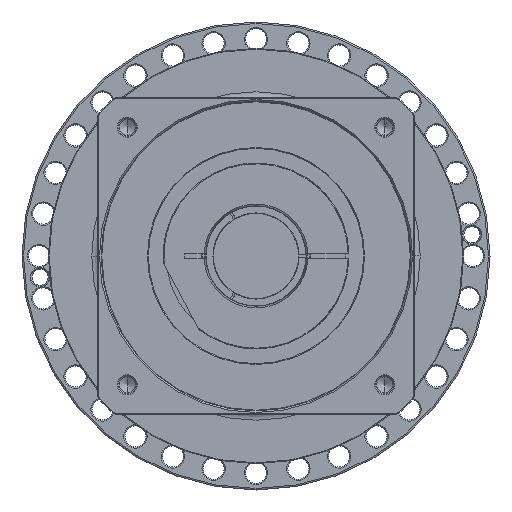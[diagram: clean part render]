
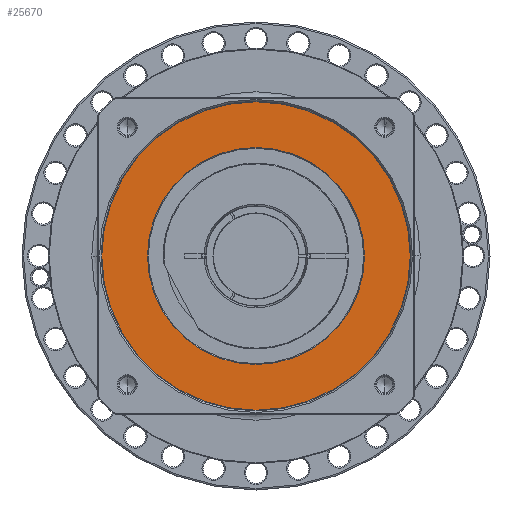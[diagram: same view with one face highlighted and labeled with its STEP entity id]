
A CAD part, left-side view. The second image highlights one B-rep face of the part: STEP entity #25670.
In plain terms, the highlighted planar face has unit normal (-1, 0, 0) as drawn and (0, 0, 1) by its records, which use the part's own axes.
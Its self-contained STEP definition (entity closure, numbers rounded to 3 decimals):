
#24401=CARTESIAN_POINT('',(0.,0.,50.5));
#24402=DIRECTION('',(0.,0.,-1.));
#24403=DIRECTION('',(0.,-1.,0.));
#24404=AXIS2_PLACEMENT_3D('',#24401,#24402,#24403);
#24406=CARTESIAN_POINT('',(0.,0.,50.5));
#24407=DIRECTION('',(0.,0.,-1.));
#24408=DIRECTION('',(0.,1.,0.));
#24409=AXIS2_PLACEMENT_3D('',#24406,#24407,#24408);
#24411=CARTESIAN_POINT('',(0.,0.,50.5));
#24412=DIRECTION('',(0.,0.,-1.));
#24413=DIRECTION('',(1.,0.,0.));
#24414=AXIS2_PLACEMENT_3D('',#24411,#24412,#24413);
#24429=CARTESIAN_POINT('',(0.,0.,50.5));
#24430=DIRECTION('',(0.,0.,-1.));
#24431=DIRECTION('',(-1.,0.,0.));
#24432=AXIS2_PLACEMENT_3D('',#24429,#24430,#24431);
#24964=CARTESIAN_POINT('',(0.,-99.5,50.5));
#24965=CARTESIAN_POINT('',(0.,99.5,50.5));
#24966=VERTEX_POINT('',#24964);
#24967=VERTEX_POINT('',#24965);
#24972=CARTESIAN_POINT('',(-70.,0.,50.5));
#24973=CARTESIAN_POINT('',(70.,0.,50.5));
#24974=VERTEX_POINT('',#24972);
#24975=VERTEX_POINT('',#24973);
#25654=CARTESIAN_POINT('',(0.,0.,50.5));
#25655=DIRECTION('',(0.,0.,-1.));
#25656=DIRECTION('',(0.,-1.,0.));
#25657=AXIS2_PLACEMENT_3D('',#25654,#25655,#25656);
#25658=PLANE('',#25657);
#25660=ORIENTED_EDGE('',*,*,#25659,.T.);
#25661=ORIENTED_EDGE('',*,*,#25644,.T.);
#25662=EDGE_LOOP('',(#25660,#25661));
#25663=FACE_OUTER_BOUND('',#25662,.F.);
#25665=ORIENTED_EDGE('',*,*,#25664,.F.);
#25667=ORIENTED_EDGE('',*,*,#25666,.F.);
#25668=EDGE_LOOP('',(#25665,#25667));
#25669=FACE_BOUND('',#25668,.F.);
#25670=ADVANCED_FACE('',(#25663,#25669),#25658,.F.);
#24405=CIRCLE('',#24404,99.5);
#24410=CIRCLE('',#24409,99.5);
#24415=CIRCLE('',#24414,70.);
#24433=CIRCLE('',#24432,70.);
#25644=EDGE_CURVE('',#24967,#24966,#24410,.T.);
#25659=EDGE_CURVE('',#24966,#24967,#24405,.T.);
#25664=EDGE_CURVE('',#24975,#24974,#24415,.T.);
#25666=EDGE_CURVE('',#24974,#24975,#24433,.T.);
